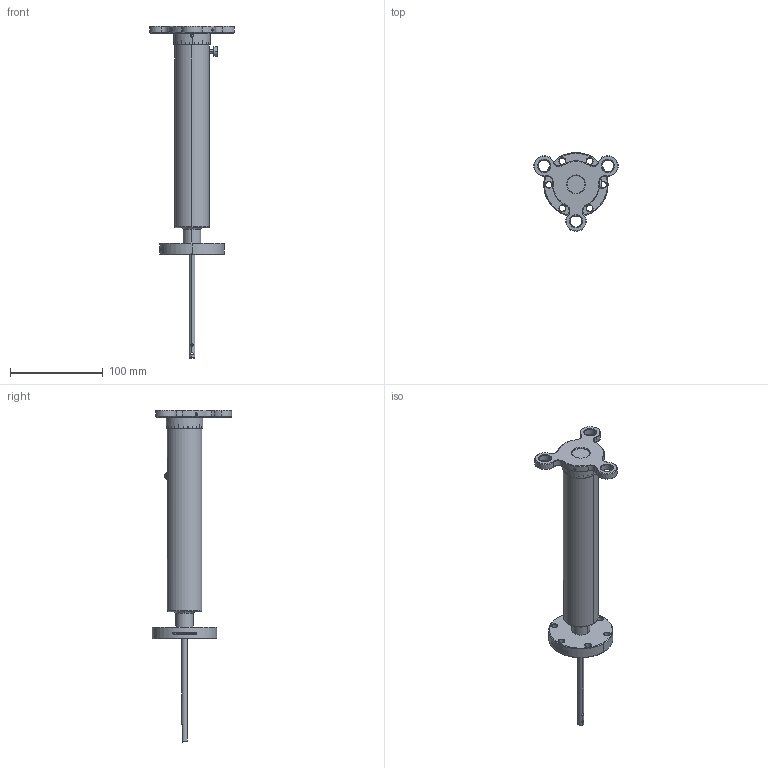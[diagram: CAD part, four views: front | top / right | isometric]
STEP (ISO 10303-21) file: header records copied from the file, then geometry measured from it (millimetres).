
FILE_DESCRIPTION (( 'STEP AP203' ), '1' );
FILE_NAME ('113079-113086.stp', '2019-03-07T16:41:43', ( '' ), ( '' ), 'SwSTEP 2.0', 'SolidWorks 2012', '' );
FILE_SCHEMA (( 'CONFIG_CONTROL_DESIGN' ));
Length unit declared in the file: centimetre
Products named in the file (1): 113079-113086
Bounding box: 90.97 x 85.47 x 358.01 mm (x, y, z)
Volume: 304634.5 mm3; surface area: 49494.7 mm2
Topology: 1 solids, 1 shells, 869 faces, 2379 edges, 1550 vertices
Faces by surface type: plane 454, bspline 159, cylinder 147, cone 109
Entity records: 55957 total; most frequent: CARTESIAN_POINT 35219, ORIENTED_EDGE 4754, DIRECTION 3670, EDGE_CURVE 2377, VERTEX_POINT 1550, AXIS2_PLACEMENT_3D 1309, LINE 1052, VECTOR 1052
